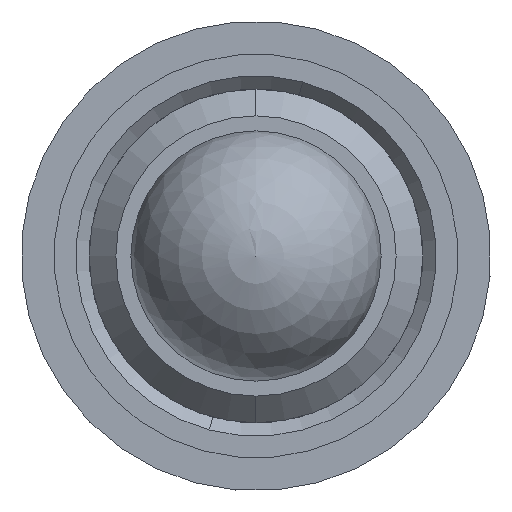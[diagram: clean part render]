
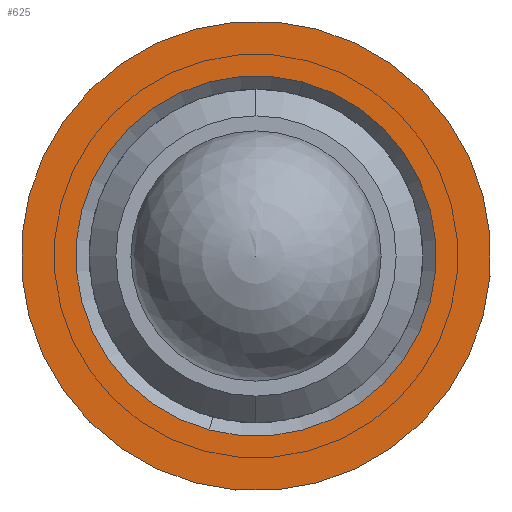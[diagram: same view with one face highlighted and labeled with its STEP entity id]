
A CAD part, left-side view. The second image highlights one B-rep face of the part: STEP entity #625.
In plain terms, the highlighted planar face has unit normal (-1, 0, 0).
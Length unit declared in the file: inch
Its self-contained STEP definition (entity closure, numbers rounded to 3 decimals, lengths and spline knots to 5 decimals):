
#3 = PLANE ( 'NONE',  #1167 ) ;
#9 = DIRECTION ( 'NONE',  ( 1., 0., 0. ) ) ;
#13 = AXIS2_PLACEMENT_3D ( 'NONE', #510, #500, #432 ) ;
#35 = CARTESIAN_POINT ( 'NONE',  ( 0.47739, 2.19741, 3.28373 ) ) ;
#75 = CARTESIAN_POINT ( 'NONE',  ( 0.47739, 2.23234, 3.15333 ) ) ;
#92 = AXIS2_PLACEMENT_3D ( 'NONE', #75, #1066, #833 ) ;
#96 = VERTEX_POINT ( 'NONE', #244 ) ;
#232 = EDGE_LOOP ( 'NONE', ( #1052, #471 ) ) ;
#244 = CARTESIAN_POINT ( 'NONE',  ( 0.47739, 2.1868, 3.32334 ) ) ;
#294 = CIRCLE ( 'NONE', #13, 0.135 ) ;
#389 = EDGE_CURVE ( 'NONE', #1440, #964, #747, .T. ) ;
#432 = DIRECTION ( 'NONE',  ( 0., 0.259, -0.966 ) ) ;
#437 = CARTESIAN_POINT ( 'NONE',  ( 0.47739, 2.27787, 2.98332 ) ) ;
#457 = EDGE_CURVE ( 'NONE', #96, #985, #899, .T. ) ;
#471 = ORIENTED_EDGE ( 'NONE', *, *, #803, .T. ) ;
#500 = DIRECTION ( 'NONE',  ( 1., 0., 0. ) ) ;
#510 = CARTESIAN_POINT ( 'NONE',  ( 0.47739, 2.23234, 3.15333 ) ) ;
#567 = FACE_OUTER_BOUND ( 'NONE', #1442, .T. ) ;
#625 = ADVANCED_FACE ( 'NONE', ( #1162, #567 ), #3, .F. ) ;
#659 = ORIENTED_EDGE ( 'NONE', *, *, #1399, .T. ) ;
#688 = ORIENTED_EDGE ( 'NONE', *, *, #457, .T. ) ;
#723 = DIRECTION ( 'NONE',  ( 0., 0.259, -0.966 ) ) ;
#747 = CIRCLE ( 'NONE', #934, 0.135 ) ;
#803 = EDGE_CURVE ( 'NONE', #964, #1440, #294, .T. ) ;
#825 = CARTESIAN_POINT ( 'NONE',  ( 0.47739, 2.23234, 3.15333 ) ) ;
#833 = DIRECTION ( 'NONE',  ( 0., -0.259, 0.966 ) ) ;
#899 = CIRCLE ( 'NONE', #92, 0.176 ) ;
#934 = AXIS2_PLACEMENT_3D ( 'NONE', #825, #1134, #1123 ) ;
#938 = CARTESIAN_POINT ( 'NONE',  ( 0.47739, 2.23234, 3.15333 ) ) ;
#964 = VERTEX_POINT ( 'NONE', #1448 ) ;
#985 = VERTEX_POINT ( 'NONE', #437 ) ;
#995 = DIRECTION ( 'NONE',  ( -1., 0., 0. ) ) ;
#1020 = CIRCLE ( 'NONE', #1358, 0.176 ) ;
#1052 = ORIENTED_EDGE ( 'NONE', *, *, #389, .T. ) ;
#1062 = CARTESIAN_POINT ( 'NONE',  ( 0.47739, 2.23234, 3.15333 ) ) ;
#1066 = DIRECTION ( 'NONE',  ( -1., 0., 0. ) ) ;
#1123 = DIRECTION ( 'NONE',  ( 0., 0.259, -0.966 ) ) ;
#1134 = DIRECTION ( 'NONE',  ( 1., 0., 0. ) ) ;
#1162 = FACE_BOUND ( 'NONE', #232, .T. ) ;
#1167 = AXIS2_PLACEMENT_3D ( 'NONE', #938, #9, #723 ) ;
#1318 = DIRECTION ( 'NONE',  ( 0., -0.259, 0.966 ) ) ;
#1358 = AXIS2_PLACEMENT_3D ( 'NONE', #1062, #995, #1318 ) ;
#1399 = EDGE_CURVE ( 'NONE', #985, #96, #1020, .T. ) ;
#1440 = VERTEX_POINT ( 'NONE', #35 ) ;
#1442 = EDGE_LOOP ( 'NONE', ( #688, #659 ) ) ;
#1448 = CARTESIAN_POINT ( 'NONE',  ( 0.47739, 2.26727, 3.02293 ) ) ;
